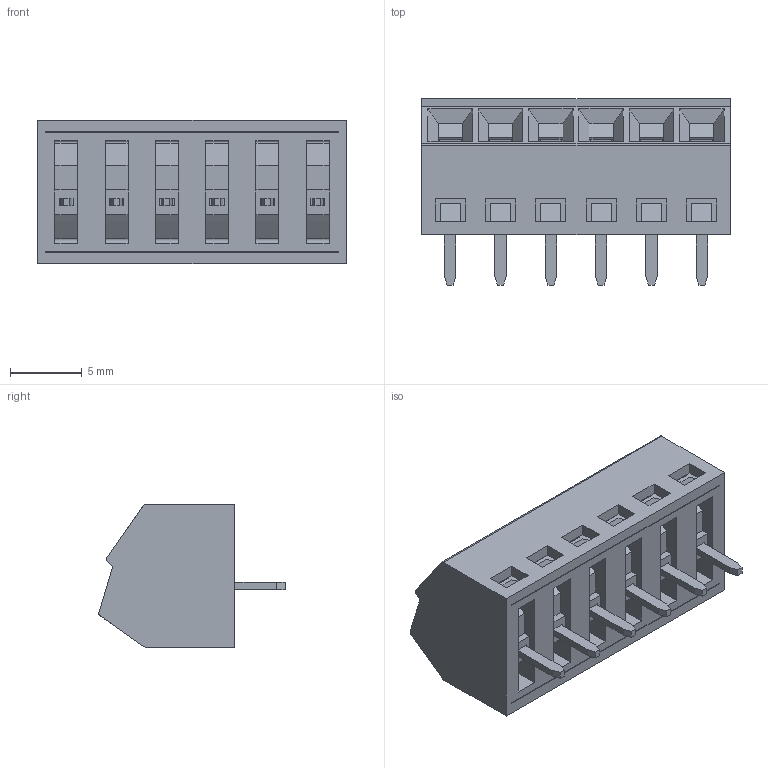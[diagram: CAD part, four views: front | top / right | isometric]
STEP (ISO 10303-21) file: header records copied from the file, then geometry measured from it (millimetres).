
FILE_DESCRIPTION (( 'STEP AP203' ), '1' );
FILE_NAME ('8932-C095100GAA06SB.STEP', '2019-06-28T05:53:44', ( '' ), ( '' ), 'SwSTEP 2.0', 'SolidWorks 2011', '' );
FILE_SCHEMA (( 'CONFIG_CONTROL_DESIGN' ));
Products named in the file (1): 8932-C095100GAA06SB
Bounding box: 21.5 x 12.97 x 10 mm (x, y, z)
Volume: 1225.2 mm3; surface area: 3978.8 mm2
Topology: 7 solids, 7 shells, 1255 faces, 3543 edges, 2326 vertices
Faces by surface type: plane 789, cylinder 280, bspline 162, cone 24
Entity records: 55018 total; most frequent: CARTESIAN_POINT 23860, ORIENTED_EDGE 7086, DIRECTION 5488, EDGE_CURVE 3543, VERTEX_POINT 2326, VECTOR 2300, LINE 2300, AXIS2_PLACEMENT_3D 1594
